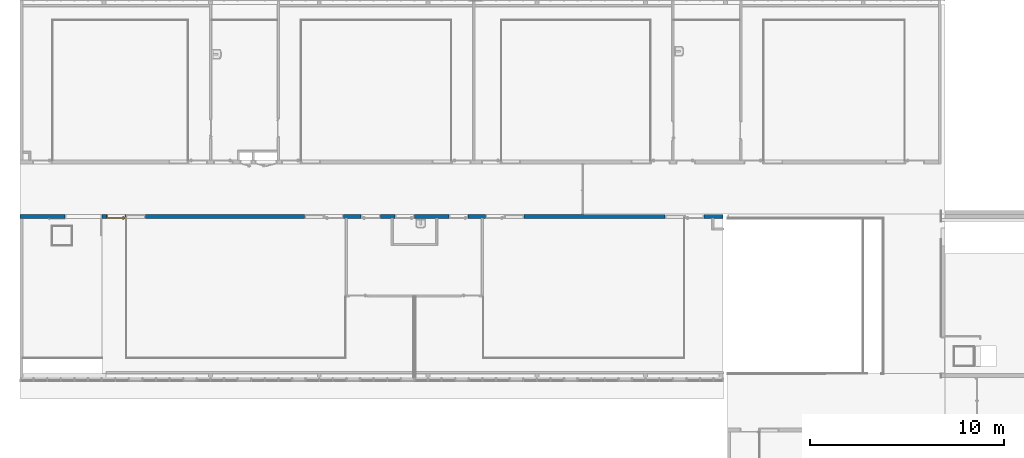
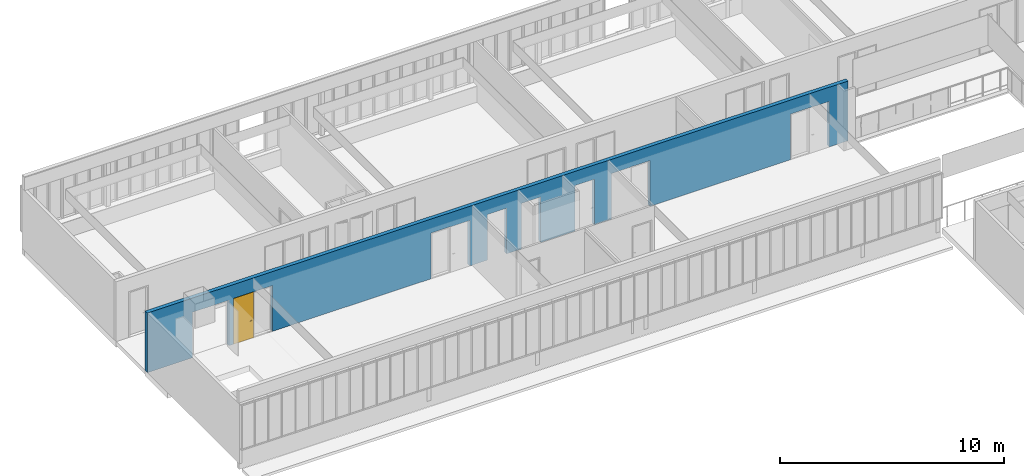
# One storey, part 30 of 87: 1 door, 1 wall, 12 openings.
"""IFC2X3 building model written with IfcOpenShell, lengths in centimetres."""

from ifc_helpers import new_model, entity, si_unit, converted_unit, derived_unit, direction, frame, frame_2d, origin, place, context, subcontext, project, spatial, rectangle, extrude, faceted_brep, source, transform, mapped, material, material_list, layer, layer_set, layer_usage, type_object, type_shapes, element, fill, save


model = new_model("IFC2X3")

# Units and contexts
model_context = context("Model", 3, precision=0.001, world=origin(), true_north=direction((6.12303176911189e-17, 1.0)))
body_context = subcontext(model_context, "Body", "Model", "MODEL_VIEW")
ifc_project = project(units=[si_unit("LENGTHUNIT", "METRE", prefix="CENTI"), si_unit("AREAUNIT", "SQUARE_METRE"), si_unit("VOLUMEUNIT", "CUBIC_METRE"), converted_unit("PLANEANGLEUNIT", "DEGREE", entity("IfcRatioMeasure", 0.0174532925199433), si_unit("PLANEANGLEUNIT", "RADIAN"), dimensions=[0, 0, 0, 0, 0, 0, 0]), si_unit("MASSUNIT", "GRAM", prefix="KILO"), derived_unit("MASSDENSITYUNIT", [(si_unit("MASSUNIT", "GRAM", prefix="KILO"), 1), (si_unit("LENGTHUNIT", "METRE"), -3)]), si_unit("TIMEUNIT", "SECOND"), si_unit("FREQUENCYUNIT", "HERTZ"), si_unit("THERMODYNAMICTEMPERATUREUNIT", "DEGREE_CELSIUS"), derived_unit("THERMALTRANSMITTANCEUNIT", [(si_unit("MASSUNIT", "GRAM", prefix="KILO"), 1), (si_unit("THERMODYNAMICTEMPERATUREUNIT", "KELVIN"), -1), (si_unit("TIMEUNIT", "SECOND"), -3)]), derived_unit("VOLUMETRICFLOWRATEUNIT", [(si_unit("LENGTHUNIT", "METRE"), 3), (si_unit("TIMEUNIT", "SECOND"), -1)]), si_unit("ELECTRICCURRENTUNIT", "AMPERE"), si_unit("ELECTRICVOLTAGEUNIT", "VOLT"), si_unit("POWERUNIT", "WATT"), si_unit("FORCEUNIT", "NEWTON", prefix="KILO"), si_unit("ILLUMINANCEUNIT", "LUX"), si_unit("LUMINOUSFLUXUNIT", "LUMEN"), si_unit("LUMINOUSINTENSITYUNIT", "CANDELA"), derived_unit("USERDEFINED", [(si_unit("MASSUNIT", "GRAM", prefix="KILO"), -1), (si_unit("LENGTHUNIT", "METRE"), -2), (si_unit("TIMEUNIT", "SECOND"), 3), (si_unit("LUMINOUSFLUXUNIT", "LUMEN"), 1)]), derived_unit("LINEARVELOCITYUNIT", [(si_unit("LENGTHUNIT", "METRE"), 1), (si_unit("TIMEUNIT", "SECOND"), -1)]), si_unit("PRESSUREUNIT", "PASCAL"), derived_unit("USERDEFINED", [(si_unit("LENGTHUNIT", "METRE"), -2), (si_unit("MASSUNIT", "GRAM", prefix="KILO"), 1), (si_unit("TIMEUNIT", "SECOND"), -2)])], contexts=[model_context])

# Site, building, storey
site_placement = place(None, frame((-2781.94577612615, 7442.24238424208, 0.0)))
site = spatial("IfcSite", under=ifc_project, at=site_placement, Name="Default", CompositionType="ELEMENT")
building_placement = place(site_placement, origin())
building = spatial("IfcBuilding", under=site, at=building_placement, CompositionType="ELEMENT")
storey_placement = place(building_placement, frame((0.0, 0.0, 774.0)))
storey = spatial("IfcBuildingStorey", under=building, at=storey_placement, Name="TR - N02 - ARCH", CompositionType="ELEMENT", Elevation=774.0)

# Wall, openings, door
ifc_material_1 = material(Name="01 - Maçonnerie")
ifc_layer = layer(ifc_material_1, 20.0)
ifc_layer_set = layer_set([ifc_layer], Name="Mur de base:04 - Structure - béton - 20cm")
ifc_layer_usage = layer_usage(ifc_layer_set, "AXIS2", "NEGATIVE", 10.0)
wall_type = type_object("IfcWallType", Name="Mur de base:04 - Structure - béton - 20cm", PredefinedType="STANDARD", material=ifc_layer_set)
wall_placement = place(storey_placement, frame((-4791.99987760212, -1100.0, 0.0), z_axis=(0.0, 0.0, 1.0), x_axis=(-1.0, 0.0, 0.0)))
wall = element("IfcWallStandardCase", 1, at=wall_placement, inside=storey, type_object=wall_type, material=ifc_layer_usage, Name="Mur de base:04 - Structure - béton - 20cm", ObjectType="Mur de base:04 - Structure - béton - 20cm", context=body_context, shape_type="SweptSolid", body=[
    extrude(rectangle(XDim=3617.50000006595, YDim=20.0000000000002, at=frame_2d((1808.75000003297, -3.99680288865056e-14), x_axis=(-1.0, 0.0))), origin(), (0.0, 0.0, 1.0), 326.0),
])
opening_1_placement = place(wall_placement, frame((3071.50016406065, -10.0, 0.0)))
opening_1 = element("IfcOpeningElement", 2, at=opening_1_placement, cuts=wall, Name="Int. Simple:PV (0.93m x 2.50m):1", ObjectType="Opening", context=body_context, shape_type="SweptSolid", body=[
    extrude(rectangle(XDim=248.500000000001, YDim=99.9999999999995, at=frame_2d((124.250000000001, 49.9999999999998), x_axis=(1.0, 0.0))), frame((0.0, 0.0, 0.0), z_axis=(0.0, 1.0, 0.0), x_axis=(0.0, 0.0, 1.0)), (0.0, 0.0, 1.0), 20.0),
])
opening_2_placement = place(wall_placement, frame((1952.5, -10.0, 0.0)))
element("IfcOpeningElement", 3, at=opening_2_placement, cuts=wall, Name="Int. Simple:PV (0.93m x 2.50m):1", ObjectType="Opening", context=body_context, shape_type="SweptSolid", body=[
    extrude(rectangle(XDim=248.500000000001, YDim=99.9999999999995, at=frame_2d((124.250000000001, 50.0), x_axis=(1.0, 0.0))), frame((0.0, 0.0, 0.0), z_axis=(0.0, 1.0, 0.0), x_axis=(0.0, 0.0, 1.0)), (0.0, 0.0, 1.0), 20.0),
])
opening_3_placement = place(wall_placement, frame((1762.50000000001, -10.0, 0.0)))
element("IfcOpeningElement", 4, at=opening_3_placement, cuts=wall, Name="Int. Simple:PP simple (0.93m x 2.50m):1", ObjectType="Opening", context=body_context, shape_type="SweptSolid", body=[
    extrude(rectangle(XDim=248.500000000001, YDim=99.9999999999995, at=frame_2d((124.250000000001, 50.0), x_axis=(1.0, 0.0))), frame((0.0, 0.0, 0.0), z_axis=(0.0, 1.0, 0.0), x_axis=(0.0, 0.0, 1.0)), (0.0, 0.0, 1.0), 20.0),
])
opening_4_placement = place(wall_placement, frame((1310.5, -10.0, 0.0)))
element("IfcOpeningElement", 5, at=opening_4_placement, cuts=wall, Name="Int. Simple:PP simple (0.93m x 2.50m):1", ObjectType="Opening", context=body_context, shape_type="SweptSolid", body=[
    extrude(rectangle(XDim=248.500000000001, YDim=99.9999999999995, at=frame_2d((124.250000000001, 49.9999999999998), x_axis=(1.0, 0.0))), frame((0.0, 0.0, 0.0), z_axis=(0.0, 1.0, 0.0), x_axis=(0.0, 0.0, 1.0)), (0.0, 0.0, 1.0), 20.0),
])
opening_5_placement = place(wall_placement, frame((1587.5, -10.0, 0.0)))
element("IfcOpeningElement", 6, at=opening_5_placement, cuts=wall, Name="Int. Simple:PP simple (0.93m x 2.50m):1", ObjectType="Opening", context=body_context, shape_type="SweptSolid", body=[
    extrude(rectangle(XDim=248.500000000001, YDim=99.9999999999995, at=frame_2d((124.250000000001, 49.9999999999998), x_axis=(1.0, 0.0))), frame((0.0, 0.0, 0.0), z_axis=(0.0, 1.0, 0.0), x_axis=(0.0, 0.0, 1.0)), (0.0, 0.0, 1.0), 20.0),
])
opening_6_placement = place(wall_placement, frame((1122.5, -10.0, 0.0)))
element("IfcOpeningElement", 7, at=opening_6_placement, cuts=wall, Name="Int. Simple:PV (0.93m x 2.50m):1", ObjectType="Opening", context=body_context, shape_type="SweptSolid", body=[
    extrude(rectangle(XDim=248.500000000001, YDim=99.9999999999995, at=frame_2d((124.250000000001, 49.9999999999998), x_axis=(1.0, 0.0))), frame((0.0, 0.0, 0.0), z_axis=(0.0, 1.0, 0.0), x_axis=(0.0, 0.0, 1.0)), (0.0, 0.0, 1.0), 20.0),
])
opening_7_placement = place(wall_placement, frame((97.5000000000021, -10.0, 0.0)))
element("IfcOpeningElement", 8, at=opening_7_placement, cuts=wall, Name="Int. Simple:PV (0.93m x 2.50m):1", ObjectType="Opening", context=body_context, shape_type="SweptSolid", body=[
    extrude(rectangle(XDim=248.500000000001, YDim=99.9999999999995, at=frame_2d((124.250000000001, 50.0), x_axis=(1.0, 0.0))), frame((0.0, 0.0, 0.0), z_axis=(0.0, 1.0, 0.0), x_axis=(0.0, 0.0, 1.0)), (0.0, 0.0, 1.0), 20.0),
])
opening_8_placement = place(wall_placement, frame((1022.5, -10.0, 0.0)))
element("IfcOpeningElement", 9, at=opening_8_placement, cuts=wall, Name="châssis intérieur vitré:châssis intérieur vitré (h=270) R+1:1", ObjectType="Opening", context=body_context, shape_type="SweptSolid", body=[
    extrude(rectangle(XDim=250.0, YDim=99.9999999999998, at=frame_2d((125.0, 49.9999999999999), x_axis=(1.0, 0.0))), frame((0.0, 0.0, 0.0), z_axis=(0.0, 1.0, 0.0), x_axis=(0.0, 0.0, 1.0)), (0.0, 0.0, 1.0), 20.0),
])
opening_9_placement = place(wall_placement, frame((197.500000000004, -10.0, 0.0)))
element("IfcOpeningElement", 10, at=opening_9_placement, cuts=wall, Name="châssis intérieur vitré:châssis intérieur vitré (h=270) R+1:1", ObjectType="Opening", context=body_context, shape_type="SweptSolid", body=[
    extrude(rectangle(XDim=250.0, YDim=99.9999999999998, at=frame_2d((125.0, 49.9999999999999), x_axis=(1.0, 0.0))), frame((0.0, 0.0, 0.0), z_axis=(0.0, 1.0, 0.0), x_axis=(0.0, 0.0, 1.0)), (0.0, 0.0, 1.0), 20.0),
])
opening_10_placement = place(wall_placement, frame((2052.5, -10.0, 0.0)))
element("IfcOpeningElement", 11, at=opening_10_placement, cuts=wall, Name="châssis intérieur vitré:châssis intérieur vitré (h=270) R+1:1", ObjectType="Opening", context=body_context, shape_type="SweptSolid", body=[
    extrude(rectangle(XDim=250.0, YDim=99.9999999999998, at=frame_2d((125.0, 49.9999999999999), x_axis=(1.0, 0.0))), frame((0.0, 0.0, 0.0), z_axis=(0.0, 1.0, 0.0), x_axis=(0.0, 0.0, 1.0)), (0.0, 0.0, 1.0), 20.0),
])
opening_11_placement = place(wall_placement, frame((2971.50016406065, -10.0, 0.0)))
element("IfcOpeningElement", 12, at=opening_11_placement, cuts=wall, Name="châssis intérieur vitré:châssis intérieur vitré (h=270) R+1:1", ObjectType="Opening", context=body_context, shape_type="SweptSolid", body=[
    extrude(rectangle(XDim=250.0, YDim=99.9999999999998, at=frame_2d((125.0, 49.9999999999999), x_axis=(1.0, 0.0))), frame((0.0, 0.0, 0.0), z_axis=(0.0, 1.0, 0.0), x_axis=(0.0, 0.0, 1.0)), (0.0, 0.0, 1.0), 20.0),
])
opening_12_placement = place(wall_placement, frame((3196.0, -10.0, 0.0)))
element("IfcOpeningElement", 13, at=opening_12_placement, cuts=wall, Name="Int. Double:PP (1.83m x 2.04m):1", ObjectType="Opening", context=body_context, shape_type="SweptSolid", body=[
    extrude(rectangle(XDim=248.500000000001, YDim=190.0, at=frame_2d((124.250000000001, 95.0000000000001), x_axis=(1.0, 0.0))), frame((0.0, 0.0, 0.0), z_axis=(0.0, 1.0, 0.0), x_axis=(0.0, 0.0, 1.0)), (0.0, 0.0, 1.0), 20.0),
])
ifc_material_2 = material(Name="Finition Peinture - Blanc satiné")
ifc_material_3 = material(Name="Bois - Panneau de porte")
ifc_material_4 = material(Name="Bois - Cadre de porte")
ifc_material_list_1 = material_list([ifc_material_2, ifc_material_3, ifc_material_4])
ifc_material_list_2 = material_list([ifc_material_2, ifc_material_3, ifc_material_4])
door_style = type_object("IfcDoorStyle", Name="PV (0.93m x 2.50m)", ConstructionType="NOTDEFINED", OperationType="SINGLE_SWING_RIGHT", ParameterTakesPrecedence=False, Sizeable=False, material=ifc_material_list_2)
shared_shape = source(origin(), body_context, "Body", "Brep", [
    faceted_brep([(99.5000000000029, -0.500000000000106, 87.0), (99.5000000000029, -0.500000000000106, 108.0), (98.535276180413, -0.500000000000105, 108.399601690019), (97.5000000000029, -0.500000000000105, 108.535898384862), (96.4647238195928, -0.500000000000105, 108.399601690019), (95.500000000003, -0.500000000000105, 108.0), (95.5000000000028, -0.500000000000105, 87.0), (96.4647238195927, -0.500000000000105, 86.6003983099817), (97.5000000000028, -0.500000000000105, 86.464101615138), (98.5352761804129, -0.500000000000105, 86.6003983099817), (99.5000000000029, 0.0, 108.0), (99.5000000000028, 0.0, 87.0), (98.5352761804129, 0.0, 86.6003983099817), (97.5000000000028, 0.0, 86.464101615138), (96.4647238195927, 0.0, 86.6003983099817), (95.5000000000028, 0.0, 87.0), (95.5000000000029, 0.0, 108.0), (96.4647238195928, 0.0, 108.399601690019), (97.5000000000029, 0.0, 108.535898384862), (98.535276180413, 0.0, 108.399601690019)], [[[0, 1, 2, 3, 4, 5, 6, 7, 8, 9]], [[10, 11, 12, 13, 14, 15, 16, 17, 18, 19]], [[9, 12, 11, 0]], [[8, 13, 12, 9]], [[7, 14, 13, 8]], [[7, 6, 15, 14]], [[15, 6, 5, 16]], [[4, 17, 16, 5]], [[3, 18, 17, 4]], [[2, 19, 18, 3]], [[2, 1, 10, 19]], [[11, 10, 1, 0]]]),
    faceted_brep([(99.5000000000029, 4.0, 87.0), (99.5000000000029, 4.0, 108.0), (98.535276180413, 4.0, 108.399601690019), (97.5000000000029, 4.0, 108.535898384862), (96.4647238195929, 4.0, 108.399601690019), (95.500000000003, 4.0, 108.0), (95.5000000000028, 4.0, 87.0), (96.4647238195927, 4.0, 86.6003983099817), (97.5000000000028, 4.0, 86.464101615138), (98.5352761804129, 4.0, 86.6003983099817), (97.5000000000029, 4.49999999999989, 108.535898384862), (98.535276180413, 4.49999999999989, 108.399601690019), (99.5000000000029, 4.49999999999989, 108.0), (99.5000000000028, 4.49999999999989, 87.0), (98.5352761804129, 4.49999999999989, 86.6003983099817), (97.5000000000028, 4.49999999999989, 86.464101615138), (96.4647238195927, 4.49999999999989, 86.6003983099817), (95.5000000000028, 4.49999999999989, 87.0), (95.500000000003, 4.49999999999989, 108.0), (96.4647238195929, 4.49999999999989, 108.399601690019)], [[[0, 1, 2, 3, 4, 5, 6, 7, 8, 9]], [[10, 11, 12, 13, 14, 15, 16, 17, 18, 19]], [[4, 19, 18, 5]], [[3, 10, 19, 4]], [[2, 11, 10, 3]], [[2, 1, 12, 11]], [[13, 12, 1, 0]], [[9, 14, 13, 0]], [[8, 15, 14, 9]], [[7, 16, 15, 8]], [[7, 6, 17, 16]], [[17, 6, 5, 18]]]),
    faceted_brep([(97.2974701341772, -0.500000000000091, 100.778044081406), (97.7025298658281, -0.500000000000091, 100.778044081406), (98.1000000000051, -0.500000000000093, 100.699999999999), (98.100000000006, -0.500000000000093, 99.2999999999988), (97.7025298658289, -0.500000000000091, 99.221955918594), (97.297470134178, -0.500000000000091, 99.2219559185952), (96.9000000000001, -0.500000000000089, 99.3000000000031), (96.9000000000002, -0.500000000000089, 100.7), (97.7025298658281, -3.10045754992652, 100.778044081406), (98.1000000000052, -3.26509507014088, 100.7), (97.2974701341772, -2.93267631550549, 100.778044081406), (95.9298602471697, -4.30028620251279, 100.778044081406), (96.0976414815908, -4.70534593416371, 100.778044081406), (96.9000000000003, -2.76803879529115, 100.7), (96.9000000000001, -2.76803879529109, 99.3000000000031), (97.297470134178, -2.93267631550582, 99.2219559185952), (97.7025298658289, -3.10045754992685, 99.221955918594), (96.0976414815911, -4.70534593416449, 99.221955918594), (95.9298602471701, -4.30028620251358, 99.2219559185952), (98.100000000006, -3.26509507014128, 99.2999999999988), (96.2622790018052, -5.1028160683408, 100.7), (95.7652227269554, -3.90281606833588, 100.7), (95.7652227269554, -3.90281606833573, 99.3000000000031), (96.2622790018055, -5.10281606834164, 99.2999999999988), (87.4981359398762, -5.10281606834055, 100.7), (87.4981359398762, -4.70534593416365, 100.778044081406), (87.4981359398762, -4.30028620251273, 100.778044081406), (87.4981359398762, -3.90281606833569, 100.699999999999), (87.4981359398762, -3.90281606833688, 99.3000000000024), (87.4981359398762, -4.30028620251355, 99.2219559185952), (87.4981359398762, -4.70534593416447, 99.221955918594), (87.4981359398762, -5.10281606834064, 99.2999999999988), (91.7139980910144, -4.5028160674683, 100.78786867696), (92.2692302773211, -5.1028160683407, 100.7), (91.6316793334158, -3.9028160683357, 100.7), (91.631679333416, -3.90281606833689, 99.3000000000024), (91.7139981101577, -4.50281607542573, 99.2121313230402), (92.2692310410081, -5.10281606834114, 99.2999999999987)], [[[0, 1, 2, 3, 4, 5, 6, 7]], [[2, 1, 8, 9]], [[1, 0, 10, 11, 12, 8]], [[0, 7, 13, 10]], [[14, 13, 7, 6]], [[5, 15, 14, 6]], [[5, 4, 16, 17, 18, 15]], [[3, 19, 16, 4]], [[9, 19, 3, 2]], [[9, 8, 12, 20]], [[10, 13, 21, 11]], [[22, 21, 13, 14]], [[14, 15, 18, 22]], [[16, 19, 23, 17]], [[20, 23, 19, 9]], [[24, 25, 26, 27, 28, 29, 30, 31]], [[32, 25, 33]], [[33, 25, 24]], [[33, 20, 12]], [[11, 34, 32]], [[34, 11, 21]], [[27, 26, 34]], [[32, 26, 25]], [[32, 34, 26]], [[32, 33, 12]], [[11, 32, 12]], [[21, 22, 35, 28, 27, 34]], [[36, 29, 35]], [[30, 36, 37]], [[18, 35, 22]], [[29, 28, 35]], [[30, 37, 31]], [[37, 17, 23]], [[36, 17, 37]], [[36, 18, 17]], [[36, 35, 18]], [[29, 36, 30]], [[23, 20, 33, 24, 31, 37]]]),
    faceted_brep([(97.2974701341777, 4.49999999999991, 99.2219559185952), (97.7025298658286, 4.49999999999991, 99.221955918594), (98.1000000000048, 4.4999999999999, 99.2999999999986), (98.1000000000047, 4.4999999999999, 100.7), (97.7025298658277, 4.49999999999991, 100.778044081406), (97.2974701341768, 4.49999999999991, 100.778044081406), (96.8999999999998, 4.49999999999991, 100.7), (96.900000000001, 4.49999999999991, 99.3000000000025), (96.8999999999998, 6.7485204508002, 100.7), (96.8999999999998, 6.74852045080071, 99.3000000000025), (97.2974701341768, 6.91315797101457, 100.778044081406), (97.7025298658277, 7.0809392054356, 100.778044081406), (96.0838906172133, 8.69957845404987, 100.778044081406), (95.9161093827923, 8.29451872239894, 100.778044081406), (98.1000000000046, 7.24557672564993, 100.7), (98.1000000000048, 7.24557672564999, 99.2999999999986), (97.7025298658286, 7.08093920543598, 99.221955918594), (97.2974701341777, 6.91315797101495, 99.2219559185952), (95.9161093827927, 8.29451872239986, 99.2219559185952), (96.0838906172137, 8.69957845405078, 99.221955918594), (95.751471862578, 7.89704858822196, 100.7), (95.7514718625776, 7.89704858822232, 99.3000000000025), (96.2485281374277, 9.09704858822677, 100.7), (96.2485281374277, 9.09704858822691, 99.2999999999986), (87.4954216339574, 8.29451872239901, 100.778044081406), (87.4954216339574, 8.69957845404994, 100.778044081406), (87.4954216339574, 9.09704858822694, 100.7), (87.4954216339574, 9.09704858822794, 99.2999999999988), (87.4954216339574, 8.6995784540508, 99.221955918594), (87.4954216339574, 8.29451872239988, 99.2219559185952), (87.4954216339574, 7.89704858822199, 99.3000000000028), (87.4954216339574, 7.89704858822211, 100.7), (91.6234467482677, 7.89704858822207, 100.7), (91.6234479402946, 7.89704858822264, 99.3000000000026), (91.7057655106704, 8.49704858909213, 100.78786867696), (92.255479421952, 9.09704858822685, 100.7), (92.2554795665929, 9.09704858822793, 99.2999999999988), (91.7057654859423, 8.49704858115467, 99.2121313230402)], [[[0, 1, 2, 3, 4, 5, 6, 7]], [[8, 9, 7, 6]], [[5, 10, 8, 6]], [[5, 4, 11, 12, 13, 10]], [[3, 14, 11, 4]], [[14, 3, 2, 15]], [[2, 1, 16, 15]], [[1, 0, 17, 18, 19, 16]], [[0, 7, 9, 17]], [[20, 21, 9, 8]], [[8, 10, 13, 20]], [[14, 22, 12, 11]], [[23, 22, 14, 15]], [[15, 16, 19, 23]], [[17, 9, 21, 18]], [[24, 25, 26, 27, 28, 29, 30, 31]], [[21, 20, 32, 31, 30, 33]], [[34, 24, 32]], [[25, 34, 35]], [[13, 32, 20]], [[24, 31, 32]], [[25, 35, 26]], [[35, 12, 22]], [[34, 12, 35]], [[34, 13, 12]], [[34, 32, 13]], [[24, 34, 25]], [[22, 23, 36, 27, 26, 35]], [[37, 28, 36]], [[36, 28, 27]], [[36, 23, 19]], [[18, 33, 37]], [[33, 18, 21]], [[30, 29, 33]], [[37, 29, 28]], [[37, 33, 29]], [[37, 36, 19]], [[18, 37, 19]]]),
    faceted_brep([(103.500000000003, 4.0, 245.0), (103.500000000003, 4.0, 0.0), (10.5000000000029, 4.0, 0.0), (10.5000000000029, 4.0, 245.0), (103.500000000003, 0.0, 245.0), (10.5000000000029, 0.0, 245.0), (10.5000000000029, 0.0, 0.0), (103.500000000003, 0.0, 0.0)], [[[0, 1, 2, 3]], [[4, 5, 6, 7]], [[3, 5, 4, 0]], [[2, 6, 5, 3]], [[1, 7, 6, 2]], [[0, 4, 7, 1]]]),
    faceted_brep([(107.0, 20.0, 0.0), (107.0, 0.0, 0.0), (108.500000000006, 0.0, 0.0), (108.500000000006, -0.500000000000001, 0.0), (103.500000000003, -0.500000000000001, 0.0), (103.500000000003, 4.0, 0.0), (102.0, 4.0, 0.0), (102.0, 20.5000000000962, 0.0), (108.500000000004, 20.5000000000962, 0.0), (108.500000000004, 20.0, 0.0), (108.500000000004, 20.0, 250.0), (5.50000000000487, 20.0, 250.0), (5.50000000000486, 20.0, 0.0), (7.0, 20.0, 0.0), (7.0, 20.0, 248.500000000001), (107.0, 20.0, 248.500000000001), (108.500000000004, 20.5000000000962, 250.0), (102.0, 20.5000000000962, 243.5), (12.0, 20.5000000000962, 243.5), (12.0, 20.5000000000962, 0.0), (5.50000000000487, 20.5000000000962, 0.0), (5.50000000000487, 20.5000000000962, 250.0), (102.0, 4.0, 243.5), (103.500000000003, 4.0, 245.0), (10.5000000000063, 4.0, 245.0), (10.5000000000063, 4.0, 0.0), (12.0, 4.0, 0.0), (12.0, 4.0, 243.5), (103.500000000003, -0.500000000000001, 245.0), (108.500000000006, -0.500000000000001, 250.0), (5.5000000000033, -0.500000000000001, 250.0), (5.50000000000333, -0.500000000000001, 0.0), (10.5000000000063, -0.500000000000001, 0.0), (10.5000000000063, -0.500000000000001, 245.0), (108.500000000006, 0.0, 250.0), (107.0, 0.0, 248.500000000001), (7.0, 0.0, 248.500000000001), (7.0, 0.0, 0.0), (5.5000000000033, 0.0, 0.0), (5.50000000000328, 0.0, 250.0)], [[[0, 1, 2, 3, 4, 5, 6, 7, 8, 9]], [[9, 10, 11, 12, 13, 14, 15, 0]], [[8, 16, 10, 9]], [[7, 17, 18, 19, 20, 21, 16, 8]], [[7, 6, 22, 17]], [[5, 23, 24, 25, 26, 27, 22, 6]], [[5, 4, 28, 23]], [[3, 29, 30, 31, 32, 33, 28, 4]], [[2, 34, 29, 3]], [[1, 35, 36, 37, 38, 39, 34, 2]], [[0, 15, 35, 1]], [[14, 13, 37, 36]], [[13, 12, 20, 19, 26, 25, 32, 31, 38, 37]], [[21, 20, 12, 11]], [[27, 26, 19, 18]], [[33, 32, 25, 24]], [[39, 38, 31, 30]], [[16, 21, 11, 10]], [[22, 27, 18, 17]], [[28, 33, 24, 23]], [[34, 39, 30, 29]], [[15, 14, 36, 35]]]),
])
type_shapes(door_style, [shared_shape])
door_placement = place(opening_1_placement, frame((107.0, 20.0, 0.0), z_axis=(0.0, 0.0, 1.0), x_axis=(-1.0, 0.0, 0.0)))
door = element("IfcDoor", 14, at=door_placement, inside=storey, type_object=door_style, material=ifc_material_list_1, Name="Int. Simple:PV (0.93m x 2.50m)", ObjectType="Int. Simple:PV (0.93m x 2.50m)", OverallHeight=248.500000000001, OverallWidth=99.9999999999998, context=body_context, shape_type="MappedRepresentation", body=[
    mapped(shared_shape, transform((0.0, 0.0, 0.0), scale=1.0)),
])
fill(opening_1, door)

save(model, "model.ifc")
